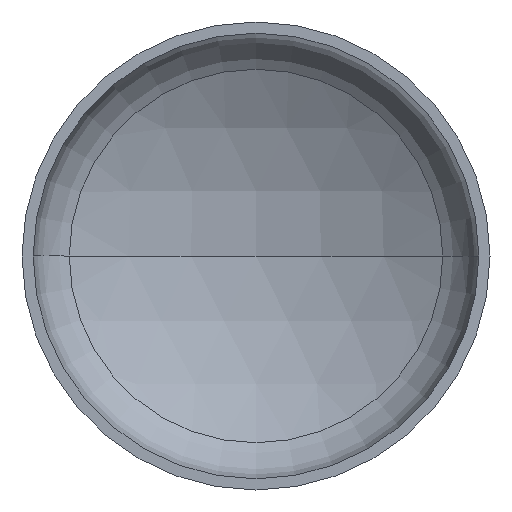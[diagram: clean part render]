
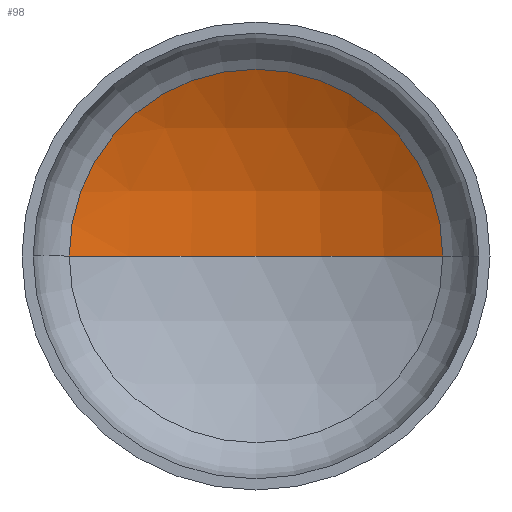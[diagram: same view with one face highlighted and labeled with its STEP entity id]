
A CAD part, front view. The second image highlights one B-rep face of the part: STEP entity #98.
In plain terms, the highlighted spherical face has radius 2080 mm.
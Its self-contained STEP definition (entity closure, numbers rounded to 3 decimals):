
#2 = AXIS2_PLACEMENT_3D ( 'NONE', #262, #411, #212 ) ;
#6 = EDGE_LOOP ( 'NONE', ( #120, #102, #44 ) ) ;
#8 = VERTEX_POINT ( 'NONE', #250 ) ;
#16 = AXIS2_PLACEMENT_3D ( 'NONE', #163, #169, #382 ) ;
#43 = AXIS2_PLACEMENT_3D ( 'NONE', #289, #329, #286 ) ;
#44 = ORIENTED_EDGE ( 'NONE', *, *, #344, .T. ) ;
#47 = VERTEX_POINT ( 'NONE', #256 ) ;
#70 = CARTESIAN_POINT ( 'NONE',  ( 0., -1336.076, 0. ) ) ;
#90 = AXIS2_PLACEMENT_3D ( 'NONE', #70, #389, #259 ) ;
#98 = ADVANCED_FACE ( 'NONE', ( #386 ), #105, .F. ) ;
#102 = ORIENTED_EDGE ( 'NONE', *, *, #388, .T. ) ;
#105 = SPHERICAL_SURFACE ( 'NONE', #43, 2080. ) ;
#120 = ORIENTED_EDGE ( 'NONE', *, *, #384, .F. ) ;
#163 = CARTESIAN_POINT ( 'NONE',  ( 0., 466.685, 0. ) ) ;
#169 = DIRECTION ( 'NONE',  ( 0., -1., 0. ) ) ;
#212 = DIRECTION ( 'NONE',  ( 1., 0., 0. ) ) ;
#250 = CARTESIAN_POINT ( 'NONE',  ( 0., 743.924, 0. ) ) ;
#256 = CARTESIAN_POINT ( 'NONE',  ( 1037.524, 466.685, 0. ) ) ;
#259 = DIRECTION ( 'NONE',  ( -1., 0., 0. ) ) ;
#261 = CARTESIAN_POINT ( 'NONE',  ( -1037.524, 466.685, 0. ) ) ;
#262 = CARTESIAN_POINT ( 'NONE',  ( 0., -1336.076, 0. ) ) ;
#277 = CIRCLE ( 'NONE', #2, 2080. ) ;
#286 = DIRECTION ( 'NONE',  ( -1., 0., 0. ) ) ;
#289 = CARTESIAN_POINT ( 'NONE',  ( 0., -1336.076, 0. ) ) ;
#295 = VERTEX_POINT ( 'NONE', #261 ) ;
#329 = DIRECTION ( 'NONE',  ( 0., 0., -1. ) ) ;
#344 = EDGE_CURVE ( 'NONE', #47, #295, #354, .T. ) ;
#354 = CIRCLE ( 'NONE', #16, 1037.524 ) ;
#382 = DIRECTION ( 'NONE',  ( 1., 0., 0. ) ) ;
#384 = EDGE_CURVE ( 'NONE', #8, #295, #277, .T. ) ;
#386 = FACE_OUTER_BOUND ( 'NONE', #6, .T. ) ;
#388 = EDGE_CURVE ( 'NONE', #8, #47, #397, .T. ) ;
#389 = DIRECTION ( 'NONE',  ( 0., 0., -1. ) ) ;
#397 = CIRCLE ( 'NONE', #90, 2080. ) ;
#411 = DIRECTION ( 'NONE',  ( 0., 0., 1. ) ) ;
